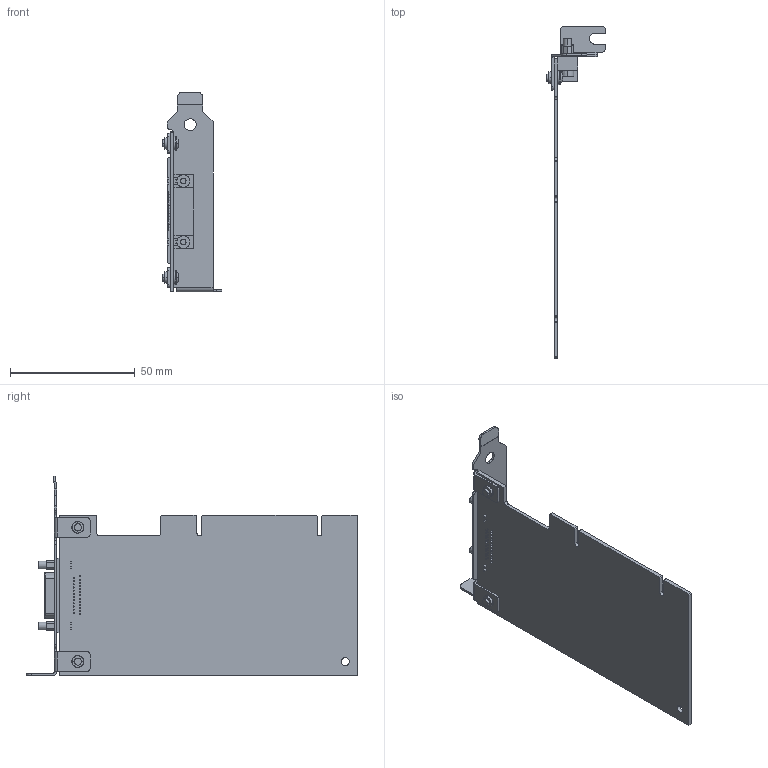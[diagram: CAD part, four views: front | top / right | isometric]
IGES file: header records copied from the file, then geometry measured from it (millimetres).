
Start section:  PTC IGES file: cu_pci-gpib_lp.igs
Global section: file name: cu_pci-gpib_lp.igs; native system: Pro/ENGINEER by Parametric Technology Corporation; preprocessor: 2010230; author: talbott; organization: Unknown; date: 20120328.110819; units: inch
Bounding box: 24.05 x 133.25 x 80.09 mm (x, y, z)
Surface area: 20016.9 mm2 (no closed solid volume)
Topology: 0 solids, 0 shells, 403 faces, 1930 edges, 1890 vertices
Faces by surface type: bspline 249, revolution 154
